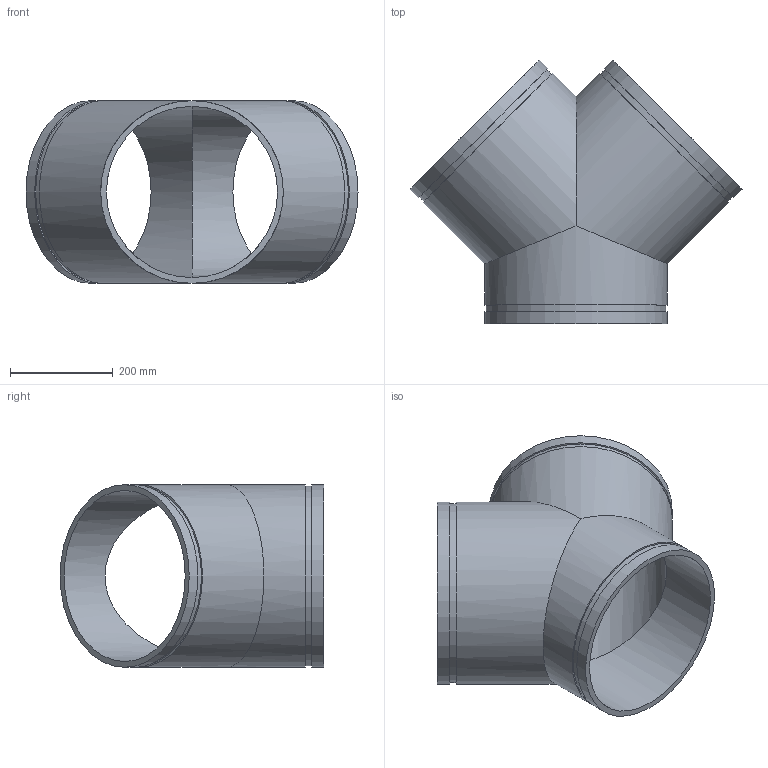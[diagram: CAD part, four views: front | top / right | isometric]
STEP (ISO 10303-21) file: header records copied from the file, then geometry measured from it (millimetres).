
FILE_DESCRIPTION(/* description */ ('This is default description.','CAx-IF Rec.Pracs.---Representation and Presentation of Product Manufacturing Information (PMI)---4.0---2014-10-13'),/* implementation_level */ '2;1');
FILE_NAME(/* name */ 'C:\Users\kkamble\AppData\Roaming\Autodesk\ApplicationPlugins\Back Up\Victaulic_IPS-Tee- Wye_ No 33 SWS (OGS)\Victaulic_IPS-Tee- Wye_ No 33 SWS (OGS)_14.stp',/* time_stamp */ '2020-09-16T22:08:40+06:00',/* author */ ('cgray'),/* organization */ ('Victaulic'),/* preprocessor_version */ 'ST-DEVELOPER v17.2',/* originating_system */ 'Autodesk Inventor 2019',/* authorisation */ '');
FILE_SCHEMA (('AP242_MANAGED_MODEL_BASED_3D_ENGINEERING_MIM_LF { 1 0 10303 442 1 1 4 }'));
Length unit declared in the file: inch
Products named in the file (1): 33 SWS-14.0
Bounding box: 646.58 x 513.79 x 355.6 mm (x, y, z)
Volume: 6474475.8 mm3; surface area: 1241326.8 mm2
Topology: 1 solids, 1 shells, 21 faces, 48 edges, 34 vertices
Faces by surface type: cylinder 12, plane 9
Full cylindrical faces by diameter (mm): 333.4 x3, 350.037 x3, 355.6 x6
Entity records: 787 total; most frequent: DIRECTION 154, CARTESIAN_POINT 121, ORIENTED_EDGE 96, AXIS2_PLACEMENT_3D 71, EDGE_CURVE 48, VERTEX_POINT 34, EDGE_LOOP 30, CIRCLE 26
